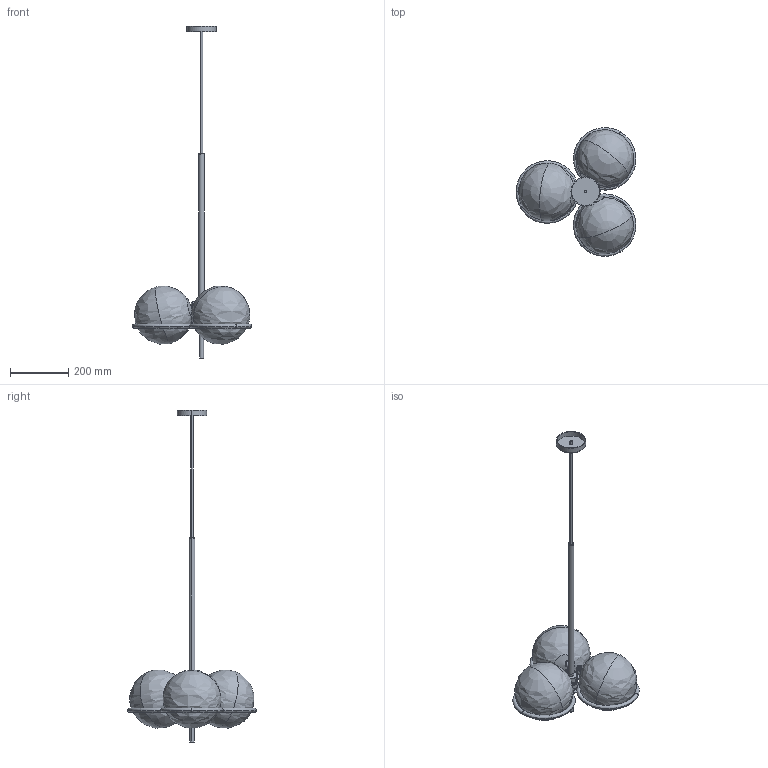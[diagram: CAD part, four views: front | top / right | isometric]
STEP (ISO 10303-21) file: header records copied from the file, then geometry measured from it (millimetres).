
FILE_DESCRIPTION(/* description */ (''),/* implementation_level */ '2;1');
FILE_NAME(/* name */ 'Era Chandelier_3D',/* time_stamp */ '2022-05-27T11:07:40+02:00',/* author */ (''),/* organization */ (''),/* preprocessor_version */ 'ST-DEVELOPER v16.5',/* originating_system */ 'Rhino 7.18',/* authorisation */ '');
FILE_SCHEMA (('CONFIG_CONTROL_DESIGN'));
Length unit declared in the file: millimetre
Products named in the file (1): Document
Bounding box: 410.5 x 440.62 x 1137.26 mm (x, y, z)
Volume: 468215.1 mm3; surface area: 610878.7 mm2
Topology: 14 solids, 23 shells, 150 faces, 326 edges, 185 vertices
Faces by surface type: cylinder 68, plane 49, bspline 33
Entity records: 5914 total; most frequent: CARTESIAN_POINT 3749, ORIENTED_EDGE 598, EDGE_CURVE 308, VERTEX_POINT 178, EDGE_LOOP 164, ADVANCED_FACE 150, FACE_OUTER_BOUND 150, DIRECTION 125
